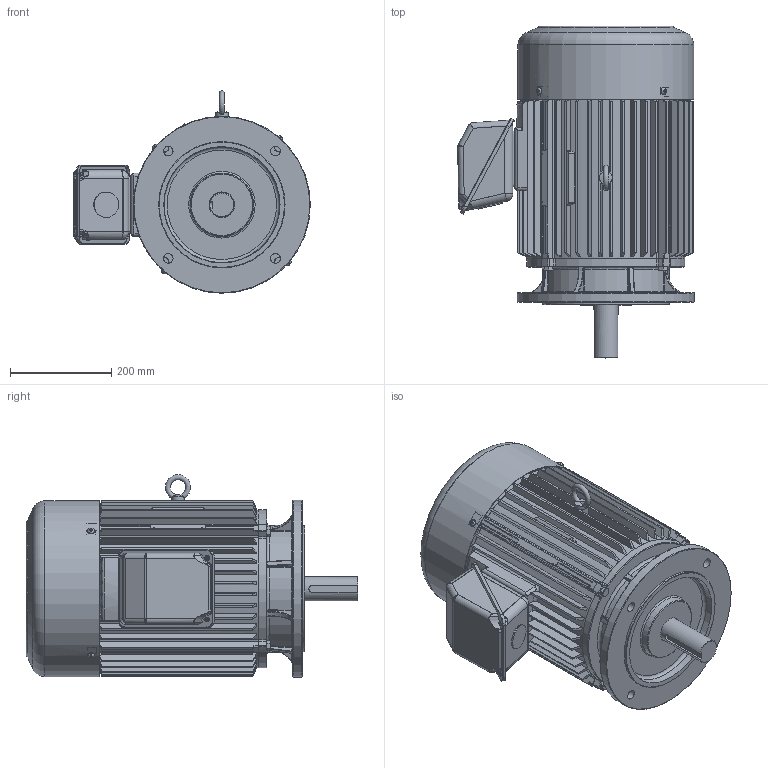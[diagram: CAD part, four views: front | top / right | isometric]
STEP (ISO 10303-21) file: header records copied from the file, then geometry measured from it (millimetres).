
FILE_DESCRIPTION(/* description */ ('Unknown'),/* implementation_level */ '2;1');
FILE_NAME(/* name */ '1-SMA-33837_외형도(300DIA)',/* time_stamp */ '2026-07-24T09:13:30+09:00',/* author */ ('Unknown'),/* organization */ ('Unknown'),/* preprocessor_version */ 'ST-DEVELOPER v16',/* originating_system */ 'DEX',/* authorisation */ $);
FILE_SCHEMA (('AUTOMOTIVE_DESIGN {1 0 10303 214 3 1 1}'));
Products named in the file (19): 1-SMA-33837_寇屈档(300DI; 2-SMA-30964_FRAME(300DIA); 3-SMA-30961_¾Õºê¶óÄÏ(300Dí"‰	; 4-SMA-30957_µÚºê¶óÄÏ(300DÅ¾|·Ï(; 5-SMA-33423_SHAFT(300DIA); 6-SMA-31246_FAN(300DIA); 7-SMA-30959_FAN COVER(300DIA); I獐お M12x1.75x22; 幫陝獐お M10x1.5x; ｽﾊﾀﾚ ｵﾕｱﾙ ｸﾓｸｮ ｺｼﾆｮ M8x1; 蹴辨 S4; 18.5~37kW_攪嘐割 夢蝶(300~330; T-BOX憶っ(300~330DIA; 18.5~37kW_堅鼠ぬ韁(300~330D; 褊濠 菅斬 該葬 獐お M5x; 9-SMA-33053_T-BOX(ж); 8-SMA-33052_T-BOX(鼻); 6310ZZ; 6309ZZ
Assembly tree (29 placements, depth 3):
  1-SMA-33837_寇屈档(300DI
    2-SMA-30964_FRAME(300DIA)
    3-SMA-30961_¾Õºê¶óÄÏ(300Dí"‰	
    4-SMA-30957_µÚºê¶óÄÏ(300DÅ¾|·Ï(
    5-SMA-33423_SHAFT(300DIA)
    6-SMA-31246_FAN(300DIA)
    7-SMA-30959_FAN COVER(300DIA)
    I獐お M12x1.75x22
    幫陝獐お M10x1.5x  x8
    ｽﾊﾀﾚ ｵﾕｱﾙ ｸﾓｸｮ ｺｼﾆｮ M8x1  x4
    蹴辨 S4
    18.5~37kW_攪嘐割 夢蝶(300~330
      T-BOX憶っ(300~330DIA
      18.5~37kW_堅鼠ぬ韁(300~330D
      褊濠 菅斬 該葬 獐お M5x  x2
      9-SMA-33053_T-BOX(ж)
      8-SMA-33052_T-BOX(鼻)
    6310ZZ
    6309ZZ
Bounding box: 468.21 x 656.49 x 400.5 mm (x, y, z)
Volume: 9240426 mm3; surface area: 2914614.5 mm2
Topology: 50 solids, 50 shells, 2256 faces, 5706 edges, 3552 vertices
Faces by surface type: plane 731, cylinder 646, cone 338, bspline 277, torus 220, sphere 44
Full cylindrical faces by diameter (mm): 2.2 x4, 2.5 x2, 4.134 x2, 4.917 x6, 5 x2, 6 x6, 7 x2, 8 x12, 8.376 x16, 9 x2, 10 x16, 10.106 x1, 12 x10, 14 x4, 19 x4, 25 x1, 40 x2, 44.7 x1, 45 x2, 45.8 x1, 48 x1, 49.8 x1, 50 x4, 50.5 x1, 55.1 x1, 58 x1, 59 x1, 60.714 x2, 61.114 x2, 62 x1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
Entity records: 91502 total; most frequent: CARTESIAN_POINT 40883, ORIENTED_EDGE 9742, DIRECTION 8844, EDGE_CURVE 4871, AXIS2_PLACEMENT_3D 3660, VERTEX_POINT 3203, FACE_BOUND 2450, EDGE_LOOP 2421
